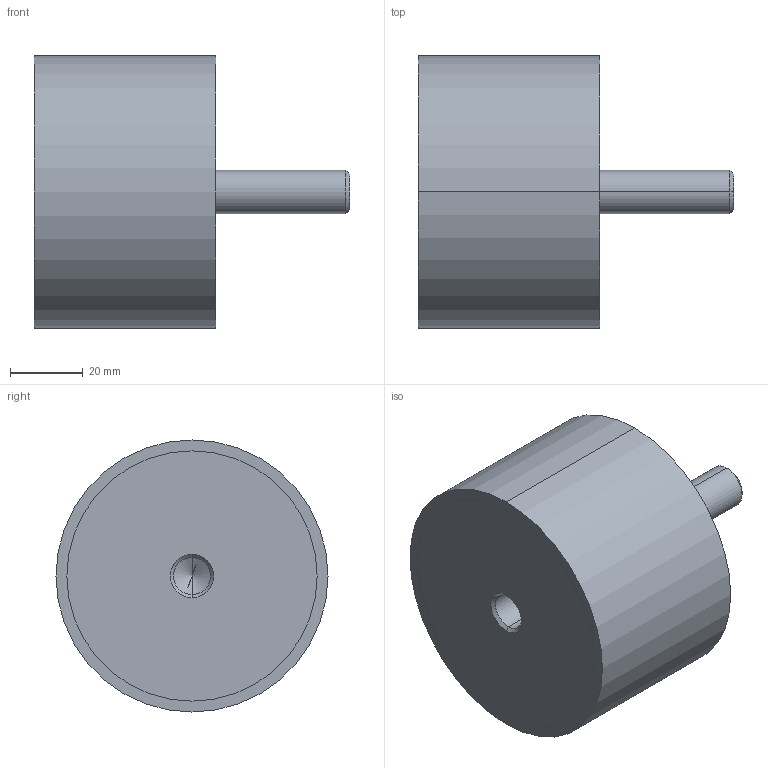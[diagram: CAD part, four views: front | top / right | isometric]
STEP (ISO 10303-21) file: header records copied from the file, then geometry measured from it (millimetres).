
FILE_DESCRIPTION (( 'STEP AP214' ), '1' );
FILE_NAME ('351-75-50-M12-ES-70.step', '2025-07-23T09:43:49', ( '' ), ( '' ), 'SwSTEP 2.0', 'SolidWorks 2022', '' );
FILE_SCHEMA (( 'AUTOMOTIVE_DESIGN' ));
Length unit declared in the file: millimetre
Products named in the file (1): 351-75-50-M12-ES-70
Bounding box: 87 x 75 x 75 mm (x, y, z)
Volume: 223790.1 mm3; surface area: 22418.7 mm2
Topology: 1 solids, 1 shells, 24 faces, 48 edges, 29 vertices
Faces by surface type: cylinder 12, cone 6, plane 6
Entity records: 740 total; most frequent: DIRECTION 124, CARTESIAN_POINT 100, ORIENTED_EDGE 92, AXIS2_PLACEMENT_3D 53, EDGE_CURVE 46, EDGE_LOOP 29, VERTEX_POINT 29, CIRCLE 28
